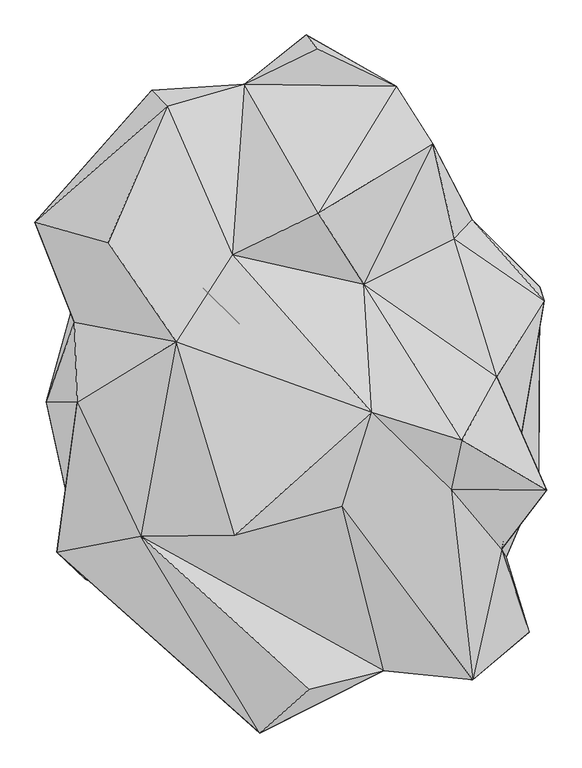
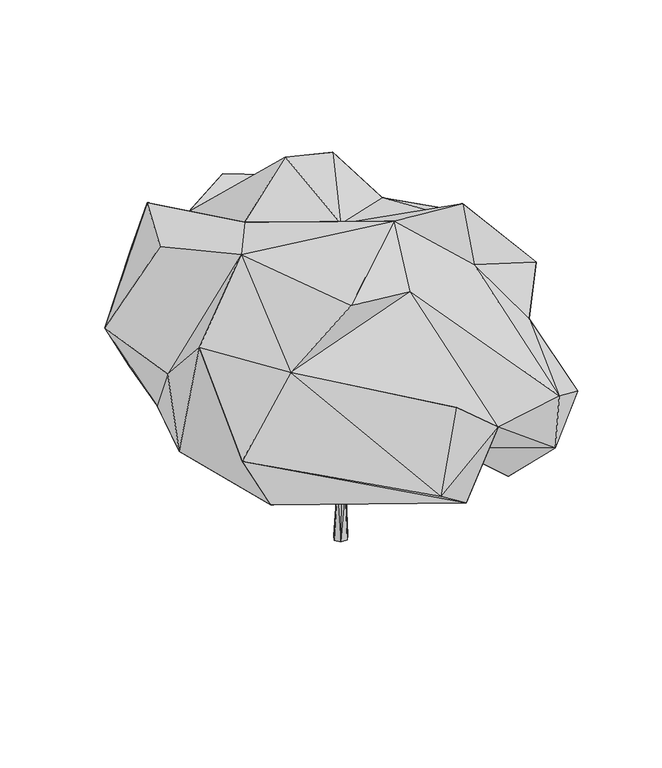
"""IFC4 building model written with IfcOpenShell, lengths in millimetres: geographic element geometry, Enscape AssetDefinition - Evergreen Tree 022 Ficus : Enscape AssetDefinition - Evergreen Tree 022 Ficus 4."""

from ifc_helpers import new_model, si_unit, origin, place, context, project, spatial, triangles, source, transform, mapped, element, save


def geographic_element_3c3fdec1(model_context):
    return source(origin(), model_context, "Body", "Tessellation", [
        triangles([(50.2096487, -27.2291519, 160.5982278), (94.5640953, -55.5193764, 265.8732336), (255.7880207, -264.2122703, 587.6010521), (98.7628488, -43.498703, 265.4745297), (39.4844358, -10.3104274, 171.5326439), (37.8776253, -16.9753799, 168.090176), (42.9141411, -23.4920231, 163.4042702), (250.5933887, -257.6366906, 594.2346951), (101.7329073, -57.9472942, 259.114035), (60.1854706, -15.3587384, 159.0866921), (49.74214, -2.5071482, 168.623501), (261.4433259, -252.6365234, 592.2280589), (263.7887133, -258.3752901, 587.4822367), (108.7740292, -50.6802641, 260.3082935), (-21.121853, 18.6495759, 295.3499228), (52.3183545, -14.7959651, 183.0141379), (41.5499211, -19.6900795, 188.6930064), (1.7527052, -108.2202566, 290.7042579), (-33.4863009, 16.304167, 302.3950051), (-29.7236354, 26.5166909, 303.4557325), (-83.1434443, 63.61687, 357.3400706), (-127.8328041, 88.3339432, 404.1794354), (-86.4513546, 62.3567634, 346.40669), (-47.1049509, 23.4199345, 297.4822054), (-36.3453742, 28.3140512, 288.1172974), (42.1411868, -10.5098077, 173.6492117), (39.6474755, -18.3828214, 172.2191936), (-83.9340755, 52.6333562, 356.3206198), (-93.7920403, 56.2987802, 352.9066203), (-130.5376898, 78.6498232, 406.1672865), (-123.818705, 77.949548, 412.6005057), (-205.0484579, 155.1140785, 533.7394415), (-195.6069012, 160.4226389, 538.9429756), (-200.1484118, 164.8581059, 532.4272759), (-119.4569345, 85.9522027, 409.699193), (46.8182406, -24.1883809, 178.7790403), (31.1006998, -75.2578882, 247.2131444), (19.2263542, -78.2053554, 241.6806151), (27.2113341, -80.8238003, 242.479131), (23.404483, -68.7324008, 247.8849602), (74.2343315, -253.7070249, 611.4469076), (19.3098406, -107.7075699, 296.6532226), (14.8763653, -100.9188491, 296.3968792), (75.34318, -263.5139481, 609.3981591), (64.3743955, -255.0123413, 609.1162723), (5.7795709, -107.9089112, 306.420795), (-153.9818984, -276.2662766, 475.0266008), (66.2670216, -264.7269191, 607.0920862), (-159.2020921, -273.9945584, 472.2068238), (6.2333297, -120.5640799, 298.5164083), (-159.1588716, -279.3709199, 468.4215534), (10.4870745, -117.5949933, 304.7285654), (52.5579974, -6.8885716, 159.7103823), (277.9240242, -11.699312, 568.6994805), (284.227473, -21.831296, 565.3503027), (45.8409883, -24.8660717, 165.7359229), (57.1702295, -20.1457952, 158.8824168), (40.0953451, -7.4071548, 166.2574572), (38.6162021, -18.078349, 168.2915445), (274.0110545, -21.1280708, 571.1656091), (-36.4013482, 149.873301, 396.3349288), (41.8072501, 78.2314712, 240.2369169), (-22.7208152, 150.7336591, 401.4126712), (30.7549769, 85.0447363, 249.9288762), (40.628652, -20.6722393, 173.940909), (53.709099, -19.6989157, 174.5694862), (37.4857343, -11.3416939, 160.5835121), (36.6882198, -15.1240053, 167.3182209), (16.2710374, 106.9106073, 267.8356683), (32.8322483, 101.7139768, 248.3093166), (-36.2510826, 153.284321, 412.9206897), (-29.4712116, 174.6886105, 424.745949), (-29.4643421, 155.6601753, 392.9699816), (47.4645038, 299.1913671, 589.6775969), (-21.9350869, 160.4384083, 411.7224343), (-22.5351797, 168.0855251, 434.9947783), (43.4523713, 292.912408, 595.4938843), (37.8923501, 298.0648188, 593.2163343), (58.6022233, -12.3238583, 165.2979046), (49.6841903, -7.4827793, 157.0762226), (71.4685483, -16.0560308, -4.3e-06), (50.7468843, 0.6112142, 178.075831), (58.8241892, -35.5814174, -9.6e-06), (54.2178479, 5.0280452, 1.4e-06), (65.4803146, -13.9287158, 180.3485484), (34.5795254, 2.7788939, 7e-07), (42.991739, -2.6917981, 180.4556276), (36.2845608, -15.4441927, 180.3711306), (24.5211936, -16.0560308, -4.3e-06), (56.3206674, -27.3499612, 179.2514678), (46.6227901, -28.196587, 180.6726565), (37.169479, -35.280877, -9.5e-06), (-339.7549158, -388.0364891, 965.0252529), (-129.5692806, -385.9809096, 1133.1921684), (-481.1598021, -88.5133382, 923.3248186), (36.5458093, -728.9184437, 910.872817), (-73.670476, -826.8203894, 685.4213894), (68.5878602, -728.8771671, 552.1400262), (-526.3893814, -423.8371745, 726.8274376), (-137.4707514, -319.548155, 402.1697834), (140.5685819, -513.1333955, 598.7849625), (-374.0009723, -233.5353819, 513.3878494), (-463.5378762, -483.4229997, 582.7805978), (-487.2472575, 88.9997819, 721.1800352), (-550.353144, -88.0329532, 568.1936248), (-481.3021989, 163.1834988, 557.0883797), (-90.0971532, -173.2276895, 603.207694), (409.8391917, -448.4392339, 446.1382479), (389.3650417, -706.1459238, 626.137072), (287.8369547, -600.3474034, 494.9506391), (309.3983748, 293.2384419, 600.3232407), (347.8687011, -159.8447309, 563.4477662), (78.2602122, -33.0122382, 568.6021754), (548.4232472, -265.1276032, 540.5486189), (475.8532582, -434.2913329, 682.7872478), (526.6065193, -601.6654916, 722.8318966), (400.7944676, -708.5257931, 812.9069218), (202.6373405, -687.6822979, 757.1024792), (110.2983366, -321.4183897, 1061.7487095), (352.9779096, -283.2859971, 1052.2178232), (176.3595659, -111.0972431, 1167.3322357), (566.1336488, -285.4869528, 988.1856852), (-259.6782629, 45.923019, 1103.1872412), (376.1765299, -174.0067117, 1200.0000818), (157.4932029, 174.1688747, 992.2332579), (360.0416136, 276.0917959, 953.6414274), (465.5504351, -416.791202, 895.846772), (454.6867086, -32.4800237, 1028.8679403), (560.5726147, 137.4871112, 917.0909695), (399.7415886, 318.5290675, 783.329512), (550.1921436, 168.6413597, 634.9384243), (311.9441497, 488.0747869, 1007.656299), (230.5739166, 616.3314205, 874.7944233), (56.7724567, 331.9561913, 1174.7182674), (54.2630305, 699.6827282, 892.1412569), (29.5665615, 730.2536093, 462.6791714), (-59.5636926, 386.5527861, 449.2342072), (-108.0982256, 620.7344221, 858.6486065), (-280.7554829, 570.8937507, 981.3373386), (-135.3139426, 240.2133718, 1059.4957947), (-575.4808253, 312.5732537, 784.9323212), (-192.7694472, 309.9205087, 561.5198679), (-315.0358578, 606.6975609, 807.7106546), (-194.2014456, 492.5918441, 508.3270755), (-462.5341221, 363.1968716, 574.1054006), (-411.5097293, 267.2110698, 1051.6158978), (218.6151625, 593.8940909, 507.0698484)], [[101, 109, 118], [101, 110, 109], [113, 147, 111], [123, 146, 104], [106, 104, 141], [146, 141, 104], [141, 145, 106], [145, 142, 106], [106, 142, 113], [137, 113, 142], [137, 147, 113], [142, 144, 137], [144, 142, 143], [145, 141, 143], [145, 143, 142], [139, 143, 141], [139, 141, 146], [140, 146, 123], [139, 146, 140], [139, 138, 143], [143, 138, 144], [138, 139, 140], [147, 137, 136], [138, 135, 136], [136, 137, 144], [136, 144, 138], [138, 133, 135], [136, 135, 133], [133, 147, 136], [133, 138, 134], [138, 140, 134], [134, 132, 133], [133, 132, 147], [130, 111, 147], [130, 131, 111], [147, 132, 130], [129, 131, 130], [129, 127, 131], [129, 130, 126], [132, 126, 130], [132, 134, 125], [125, 134, 140], [132, 125, 126], [126, 128, 129], [127, 129, 128], [128, 126, 125], [128, 122, 127], [124, 122, 128], [128, 125, 124], [140, 123, 121], [121, 124, 125], [121, 125, 140], [123, 94, 121], [122, 120, 127], [120, 124, 121], [122, 124, 120], [119, 120, 121], [119, 121, 94], [117, 120, 119], [118, 109, 117], [127, 120, 117], [119, 118, 117], [116, 117, 109], [127, 117, 116], [115, 127, 116], [116, 109, 115], [114, 127, 115], [114, 131, 127], [111, 112, 113], [112, 111, 131], [112, 131, 114], [110, 108, 109], [110, 101, 108], [115, 108, 114], [115, 109, 108], [114, 108, 112], [107, 113, 112], [112, 108, 107], [107, 108, 101], [101, 100, 107], [113, 107, 102], [107, 100, 102], [106, 113, 102], [105, 104, 106], [105, 106, 102], [105, 95, 104], [95, 123, 104], [103, 99, 95], [102, 103, 105], [105, 103, 95], [100, 103, 102], [98, 99, 103], [98, 101, 118], [100, 101, 98], [98, 103, 100], [99, 98, 97], [97, 98, 118], [118, 96, 97], [96, 118, 93], [95, 99, 93], [95, 93, 123], [94, 123, 93], [93, 119, 94], [96, 93, 97], [119, 93, 118], [93, 99, 97], [90, 91, 92], [90, 92, 83], [88, 89, 92], [88, 92, 91], [88, 87, 86], [88, 86, 89], [82, 84, 86], [82, 86, 87], [81, 85, 90], [81, 84, 82], [81, 90, 83], [81, 82, 85], [70, 80, 67], [70, 79, 80], [62, 66, 79], [62, 79, 70], [70, 63, 62], [78, 71, 76], [76, 77, 78], [63, 76, 71], [76, 63, 75], [76, 75, 74], [76, 74, 77], [71, 78, 72], [74, 72, 78], [74, 73, 72], [73, 75, 63], [74, 75, 73], [70, 73, 63], [73, 61, 72], [71, 72, 61], [73, 70, 69], [61, 73, 69], [70, 67, 69], [69, 67, 68], [69, 64, 61], [64, 65, 66], [66, 62, 64], [64, 62, 63], [71, 64, 63], [64, 69, 68], [71, 61, 64], [64, 68, 65], [58, 59, 60], [59, 56, 60], [58, 60, 54], [58, 54, 53], [55, 57, 53], [56, 55, 60], [57, 55, 56], [55, 53, 54], [52, 44, 48], [47, 50, 52], [50, 51, 18], [47, 51, 50], [18, 51, 49], [48, 45, 46], [46, 49, 47], [47, 52, 46], [46, 52, 48], [18, 49, 46], [45, 41, 46], [41, 43, 46], [40, 46, 43], [46, 40, 18], [44, 52, 42], [40, 43, 42], [42, 43, 41], [42, 41, 44], [52, 50, 42], [40, 42, 37], [37, 16, 40], [37, 42, 39], [39, 42, 50], [50, 18, 38], [39, 50, 38], [39, 38, 36], [37, 39, 36], [37, 36, 16], [26, 16, 27], [38, 27, 36], [36, 27, 16], [22, 34, 35], [33, 35, 34], [22, 32, 34], [31, 33, 32], [33, 31, 35], [31, 28, 35], [22, 30, 32], [30, 31, 32], [28, 31, 30], [22, 29, 30], [28, 30, 29], [28, 29, 24], [25, 26, 27], [16, 26, 25], [27, 24, 25], [22, 23, 29], [23, 25, 24], [24, 29, 23], [21, 23, 22], [28, 21, 35], [21, 22, 35], [21, 20, 23], [20, 16, 25], [23, 20, 25], [28, 20, 21], [19, 28, 24], [19, 20, 28], [15, 16, 20], [19, 15, 20], [17, 18, 40], [15, 19, 17], [40, 16, 17], [27, 38, 17], [17, 19, 24], [15, 17, 16], [18, 17, 38], [17, 24, 27], [13, 3, 9], [4, 8, 12], [11, 5, 4], [14, 13, 9], [12, 13, 14], [4, 12, 14], [14, 11, 4], [14, 10, 11], [9, 10, 14], [9, 1, 10], [2, 3, 8], [2, 6, 7], [5, 6, 2], [4, 5, 2], [2, 7, 1], [9, 3, 2], [2, 8, 4], [2, 1, 9]], closed=False),
    ])


if __name__ == "__main__":
    model = new_model("IFC4")
    model_context = context("Model", 3, world=origin())
    ifc_project = project(units=[si_unit("LENGTHUNIT", "METRE", prefix="MILLI")], contexts=[model_context])
    site = spatial("IfcSite", under=ifc_project)
    building = spatial("IfcBuilding", under=site)
    placement = place(None, origin())
    geographic_element_shape = geographic_element_3c3fdec1(model_context)
    element("IfcGeographicElement", 1, ObjectType="Enscape AssetDefinition - Evergreen Tree 022 Ficus : Enscape AssetDefinition - Evergreen Tree 022 Ficus 4", at=placement, inside=building, context=model_context, shape_type="MappedRepresentation", body=[
        mapped(geographic_element_shape, transform((0.0, 0.0, 0.0), x_axis=(1.0, 0.0, 0.0), y_axis=(0.0, 1.0, 0.0), z_axis=(0.0, 0.0, 1.0))),
    ])
    save(model, "model.ifc")
